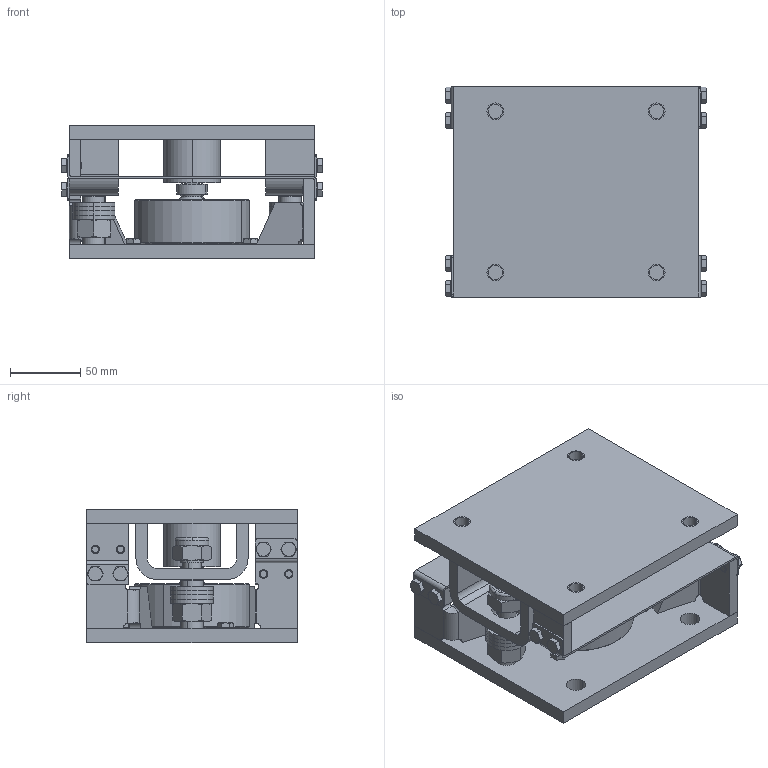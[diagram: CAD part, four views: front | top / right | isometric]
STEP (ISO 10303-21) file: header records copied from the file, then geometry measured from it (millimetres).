
FILE_DESCRIPTION((''),'1');
FILE_NAME('LMLAV_version-A.step','2020-05-18T09:59:34',(''),(''),'','','');
FILE_SCHEMA(('AUTOMOTIVE_DESIGN { 1 0 10303 214 1 1 1 1 }'));
Products named in the file (19): LMLAV plate 01; LMLAV base 01; LMLAV part 02; LMLAV plate 02; LMLAV part 03; LMLAV version-A; LMLAV part 04; LMLAV load cell 01; LMLAV body 01; LMLAV cable gland 01; LMLAV plate 03; LMLAV base 03; LMLAV plate 04; LMLAV pin 01; LMLAV screw 01; LMLAV screw 02; LMLAV nut 01; LMLAV screw 03; LMLAV nut 02
Assembly tree (41 placements, depth 3):
  LMLAV version-A
    LMLAV plate 01
      LMLAV base 01
      LMLAV part 02  x2
      LMLAV plate 02  x2
      LMLAV part 03
    LMLAV part 04  x2
    LMLAV load cell 01
      LMLAV body 01
      LMLAV cable gland 01
    LMLAV plate 03
      LMLAV base 03
      LMLAV plate 04  x2
      LMLAV pin 01  x2
    LMLAV screw 01  x3
    LMLAV screw 02  x8
    LMLAV nut 01  x2
    LMLAV screw 03  x8
    LMLAV nut 02  x2
Bounding box: 186 x 150 x 95 mm (x, y, z)
Volume: 921341.9 mm3; surface area: 258923.1 mm2
Topology: 38 solids, 59 shells, 843 faces, 1953 edges, 1224 vertices
Faces by surface type: cylinder 308, plane 293, cone 200, torus 36, bspline 4, sphere 2
Entity records: 12267 total; most frequent: CARTESIAN_POINT 2298, DIRECTION 2130, ORIENTED_EDGE 1766, EDGE_CURVE 913, AXIS2_PLACEMENT_3D 865, VERTEX_POINT 574, EDGE_LOOP 455, CIRCLE 423
